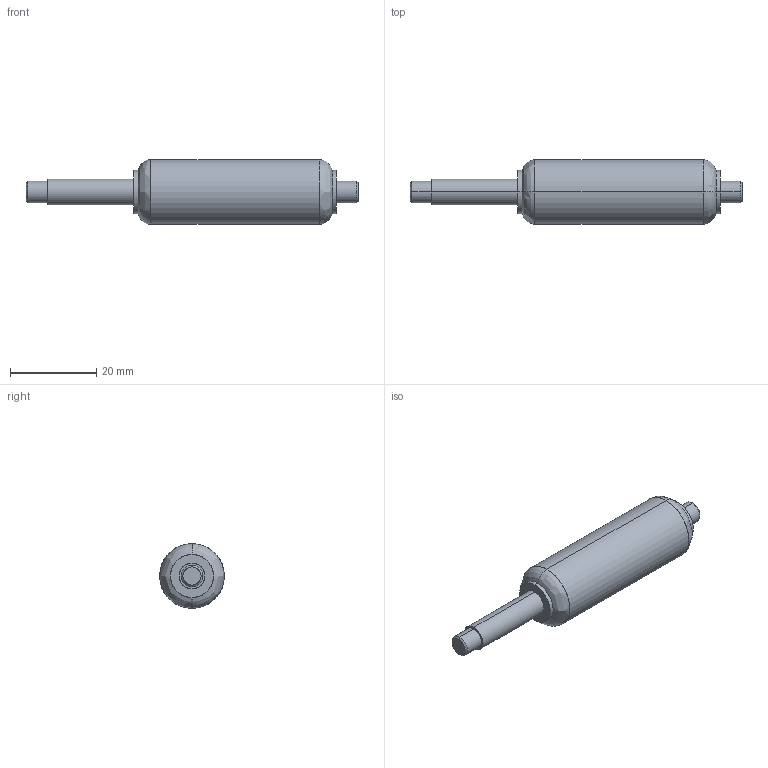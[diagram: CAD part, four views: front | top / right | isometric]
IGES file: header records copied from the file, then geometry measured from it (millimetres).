
Start section: SolidWorks IGES file using analytic representation for surfaces
Bounding box: 77 x 15 x 15 mm (x, y, z)
Surface area: 2937.6 mm2 (no closed solid volume)
Topology: 0 solids, 0 shells, 25 faces, 336 edges, 336 vertices
Faces by surface type: revolution 16, bspline 9
